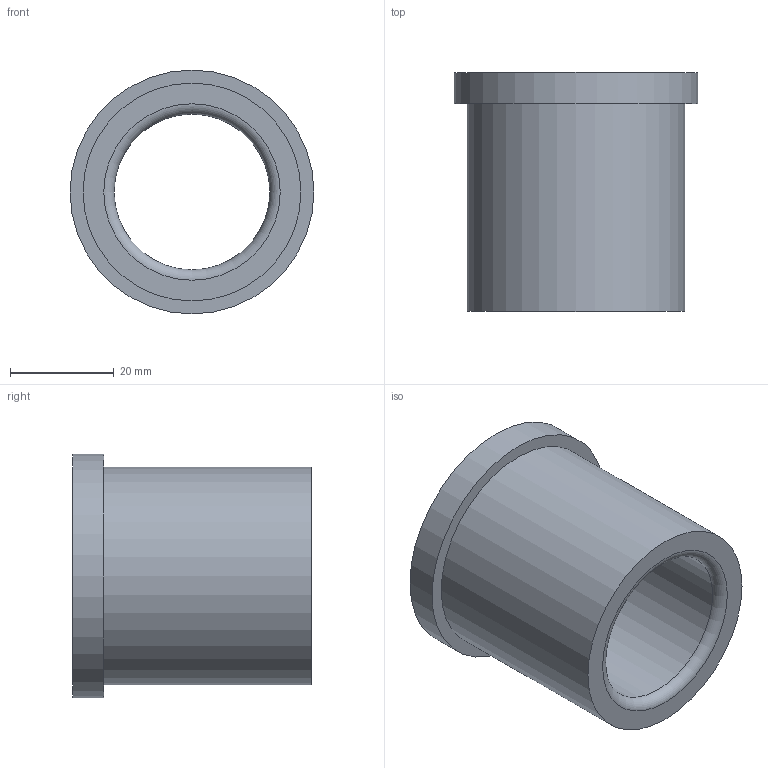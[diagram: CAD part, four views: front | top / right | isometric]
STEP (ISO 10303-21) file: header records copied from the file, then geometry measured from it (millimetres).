
FILE_DESCRIPTION(/* description */ ('STEP AP214'),/* implementation_level */ '2;1');
FILE_NAME(/* name */ '03_12_17941',/* time_stamp */ '2023-06-15T11:35:38+02:00',/* author */ ('License CC BY-ND 4.0'),/* organization */ ('CADENAS'),/* preprocessor_version */ 'ST-DEVELOPER v19.3',/* originating_system */ 'PARTsolutions',/* authorisation */ ' ');
FILE_SCHEMA (('AUTOMOTIVE_DESIGN {1 0 10303 214 3 1 1}'));
Length unit declared in the file: millimetre
Products named in the file (1): VA_Bushing_17941
Bounding box: 47 x 46 x 47 mm (x, y, z)
Volume: 32880.9 mm3; surface area: 12412.9 mm2
Topology: 1 solids, 1 shells, 10 faces, 16 edges, 10 vertices
Faces by surface type: cylinder 4, plane 4, torus 2
Full cylindrical faces by diameter (mm): 30 x1, 30.6 x1, 42 x1, 47 x1
Entity records: 302 total; most frequent: DIRECTION 42, CARTESIAN_POINT 31, AXIS2_PLACEMENT_3D 21, ORIENTED_EDGE 20, EDGE_LOOP 20, FACE_BOUND 20, EDGE_CURVE 10, VERTEX_POINT 10
